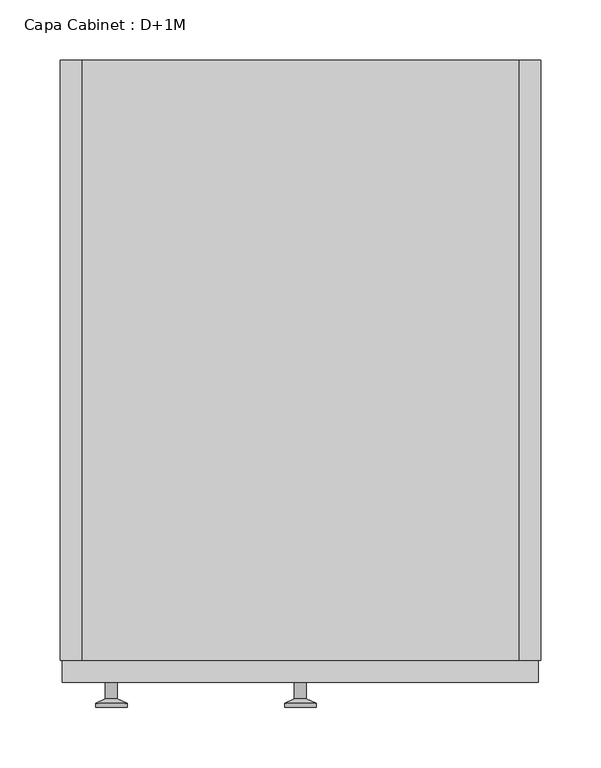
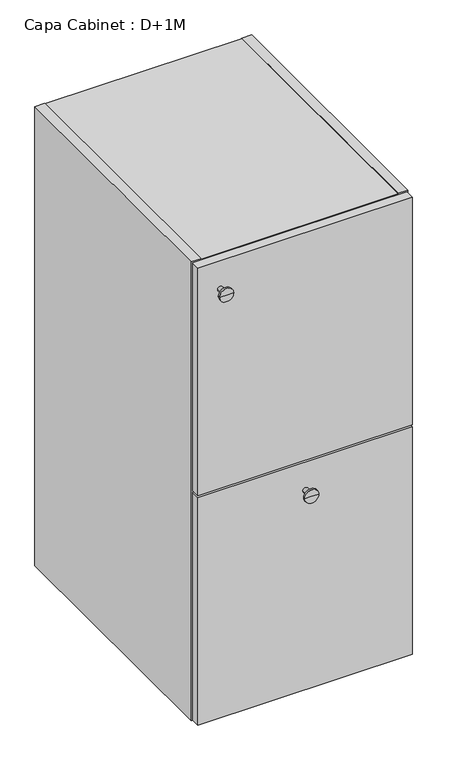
"""IFC4 building model written with IfcOpenShell, lengths in millimetres: furniture geometry, Capa Cabinet : D+1M."""

from ifc_helpers import new_model, si_unit, frame, origin, place, context, project, spatial, polyline, circle_curve, outline, extrude, faceted_brep, source, transform, mapped, element, save
from ifc_brep_helpers import plane_surface, cylinder_surface, revolved_surface, advanced_brep


def capa_cabinet_d_1m_c45f0c9c(model_context):
    return source(origin(), model_context, "Body", "SolidModel", [
        extrude(outline(polyline([(182.0, 0.0), (-182.0, 0.0), (-182.0, 490.0), (182.0, 490.0), (182.0, 0.0)])), frame((0.0, 0.0, 441.0), z_axis=(0.0, 0.0, 1.0), x_axis=(1.0, 0.0, 0.0)), (0.0, 0.0, 1.0), 14.0),
        faceted_brep([(-182.0, 500.0, 896.0), (-182.0, 500.0, 895.0), (182.0, 500.0, 895.0), (182.0, 500.0, 896.0), (200.0, 500.0, 896.0), (200.0, 500.0, 0.0), (182.0, 500.0, 0.0), (182.0, 500.0, 1.0), (-182.0, 500.0, 1.0), (-182.0, 500.0, 0.0), (-200.0, 500.0, 0.0), (-200.0, 500.0, 896.0), (182.0, 490.0, 19.0), (182.0, 490.0, 877.0), (-182.0, 490.0, 877.0), (-182.0, 490.0, 19.0), (-182.0, 0.0, 896.0), (-200.0, 0.0, 896.0), (-200.0, 0.0, 0.0), (-182.0, 0.0, 0.0), (-182.0, 0.0, 1.0), (182.0, 0.0, 1.0), (182.0, 0.0, 0.0), (200.0, 0.0, 0.0), (200.0, 0.0, 896.0), (182.0, 0.0, 896.0), (182.0, 0.0, 895.0), (-182.0, 0.0, 895.0), (182.0, 0.0, 877.0), (182.0, 0.0, 19.0), (-182.0, 0.0, 19.0), (-182.0, 0.0, 877.0)], [[[0, 1, 2, 3, 4, 5, 6, 7, 8, 9, 10, 11]], [[12, 13, 14, 15]], [[16, 17, 18, 19, 20, 21, 22, 23, 24, 25, 26, 27], [28, 29, 30, 31]], [[17, 16, 0, 11]], [[18, 17, 11, 10]], [[23, 22, 6, 5]], [[24, 23, 5, 4]], [[19, 18, 10, 9]], [[20, 19, 9, 8]], [[21, 20, 8, 7]], [[22, 21, 7, 6]], [[25, 24, 4, 3]], [[26, 25, 3, 2]], [[27, 26, 2, 1]], [[16, 27, 1, 0]], [[29, 28, 13, 12]], [[30, 29, 12, 15]], [[31, 30, 15, 14]], [[28, 31, 14, 13]]]),
        extrude(outline(polyline([(198.0, -18.0), (-198.0, -18.0), (-198.0, 0.0), (198.0, 0.0), (198.0, -18.0)])), frame((0.0, 0.0, 2.0), z_axis=(0.0, 0.0, 1.0), x_axis=(1.0, 0.0, 0.0)), (0.0, 0.0, 1.0), 444.0),
        advanced_brep(
        [(0.0, -18.0, 392.0), (5.0, -18.0, 392.0), (-5.0, -18.0, 392.0), (-13.0, -38.997134, 392.0), (13.0, -38.997134, 392.0), (0.0, -38.997134, 392.0), (-13.0, -35.5419417, 392.0), (13.0, -35.5419417, 392.0), (-5.0, -31.8114804, 392.0), (5.0, -31.8114804, 392.0)],
        [
            (0, 1),
            (1, 2, circle_curve(frame((0.0, -18.0, 392.0), z_axis=(0.0, 1.0, 0.0), x_axis=(1.0, 0.0, 0.0)), 5.0)),
            (2, 0),
            (2, 1, circle_curve(frame((0.0, -18.0, 392.0), z_axis=(0.0, 1.0, 0.0), x_axis=(1.0, 0.0, 0.0)), 5.0)),
            (3, 4, circle_curve(frame((0.0, -38.997134, 392.0), z_axis=(0.0, -1.0, 0.0), x_axis=(1.0, 0.0, 0.0)), 13.0)),
            (4, 5),
            (5, 3),
            (4, 3, circle_curve(frame((0.0, -38.997134, 392.0), z_axis=(0.0, -1.0, 0.0), x_axis=(1.0, 0.0, 0.0)), 13.0)),
            (6, 7, circle_curve(frame((0.0, -35.5419417, 392.0), z_axis=(0.0, -1.0, 0.0), x_axis=(1.0, 0.0, 0.0)), 13.0)),
            (7, 4),
            (3, 6),
            (7, 6, circle_curve(frame((0.0, -35.5419417, 392.0), z_axis=(0.0, -1.0, 0.0), x_axis=(1.0, 0.0, 0.0)), 13.0)),
            (8, 9, circle_curve(frame((0.0, -31.8114804, 392.0), z_axis=(0.0, -1.0, 0.0), x_axis=(1.0, 0.0, 0.0)), 5.0)),
            (9, 7),
            (6, 8),
            (9, 8, circle_curve(frame((0.0, -31.8114804, 392.0), z_axis=(0.0, -1.0, 0.0), x_axis=(1.0, 0.0, 0.0)), 5.0)),
            (1, 9),
            (8, 2),
        ],
        [
            plane_surface(frame((0.0, -18.0, 392.0), z_axis=(0.0, 1.0, 0.0), x_axis=(1.0, 0.0, 0.0))),
            plane_surface(frame((0.0, -38.997134, 392.0), z_axis=(0.0, -1.0, 0.0), x_axis=(1.0, 0.0, 0.0))),
            cylinder_surface(frame((0.0, -38.997134, 392.0), z_axis=(0.0, 1.0, 0.0), x_axis=(1.0, 0.0, 0.0)), 13.0),
            revolved_surface(polyline([(13.0, -35.5419417, 392.0), (5.0, -31.8114804, 392.0)]), (0.0, -38.997134, 392.0), (0.0, 1.0, 0.0)),
            cylinder_surface(frame((0.0, -38.997134, 392.0), z_axis=(0.0, 1.0, 0.0), x_axis=(1.0, 0.0, 0.0)), 5.0),
        ],
        [
            (0, [[1, 2, 3]]),
            (0, [[-3, 4, -1]]),
            (1, [[5, 6, 7]]),
            (1, [[8, -7, -6]]),
            (2, [[9, 10, -5, 11]]),
            (2, [[12, -11, -8, -10]]),
            (3, [[13, 14, -9, 15]]),
            (3, [[16, -15, -12, -14]]),
            (4, [[-2, 17, -13, 18]]),
            (4, [[-4, -18, -16, -17]]),
        ],
    ),
        extrude(outline(polyline([(198.0, -18.0), (-198.0, -18.0), (-198.0, 0.0), (198.0, 0.0), (198.0, -18.0)])), frame((0.0, 0.0, 450.0), z_axis=(0.0, 0.0, 1.0), x_axis=(1.0, 0.0, 0.0)), (0.0, 0.0, 1.0), 444.0),
        advanced_brep(
        [(-157.2922597, -18.0, 840.0), (-152.2922597, -18.0, 840.0), (-162.2922597, -18.0, 840.0), (-170.2922597, -38.997134, 840.0), (-144.2922597, -38.997134, 840.0), (-157.2922597, -38.997134, 840.0), (-170.2922597, -35.5419417, 840.0), (-144.2922597, -35.5419417, 840.0), (-162.2922597, -31.8114804, 840.0), (-152.2922597, -31.8114804, 840.0)],
        [
            (0, 1),
            (1, 2, circle_curve(frame((-157.2922597, -18.0, 840.0), z_axis=(0.0, 1.0, 0.0), x_axis=(1.0, 0.0, 0.0)), 5.0)),
            (2, 0),
            (2, 1, circle_curve(frame((-157.2922597, -18.0, 840.0), z_axis=(0.0, 1.0, 0.0), x_axis=(1.0, 0.0, 0.0)), 5.0)),
            (3, 4, circle_curve(frame((-157.2922597, -38.997134, 840.0), z_axis=(0.0, -1.0, 0.0), x_axis=(1.0, 0.0, 0.0)), 13.0)),
            (4, 5),
            (5, 3),
            (4, 3, circle_curve(frame((-157.2922597, -38.997134, 840.0), z_axis=(0.0, -1.0, 0.0), x_axis=(1.0, 0.0, 0.0)), 13.0)),
            (6, 7, circle_curve(frame((-157.2922597, -35.5419417, 840.0), z_axis=(0.0, -1.0, 0.0), x_axis=(1.0, 0.0, 0.0)), 13.0)),
            (7, 4),
            (3, 6),
            (7, 6, circle_curve(frame((-157.2922597, -35.5419417, 840.0), z_axis=(0.0, -1.0, 0.0), x_axis=(1.0, 0.0, 0.0)), 13.0)),
            (8, 9, circle_curve(frame((-157.2922597, -31.8114804, 840.0), z_axis=(0.0, -1.0, 0.0), x_axis=(1.0, 0.0, 0.0)), 5.0)),
            (9, 7),
            (6, 8),
            (9, 8, circle_curve(frame((-157.2922597, -31.8114804, 840.0), z_axis=(0.0, -1.0, 0.0), x_axis=(1.0, 0.0, 0.0)), 5.0)),
            (1, 9),
            (8, 2),
        ],
        [
            plane_surface(frame((-157.2922597, -18.0, 840.0), z_axis=(0.0, 1.0, 0.0), x_axis=(1.0, 0.0, 0.0))),
            plane_surface(frame((-157.2922597, -38.997134, 840.0), z_axis=(0.0, -1.0, 0.0), x_axis=(1.0, 0.0, 0.0))),
            cylinder_surface(frame((-157.2922597, -38.997134, 840.0), z_axis=(0.0, 1.0, 0.0), x_axis=(1.0, 0.0, 0.0)), 13.0),
            revolved_surface(polyline([(-144.2922597, -35.5419417, 840.0), (-152.2922597, -31.8114804, 840.0)]), (-157.2922597, -38.997134, 840.0), (0.0, 1.0, 0.0)),
            cylinder_surface(frame((-157.2922597, -38.997134, 840.0), z_axis=(0.0, 1.0, 0.0), x_axis=(1.0, 0.0, 0.0)), 5.0),
        ],
        [
            (0, [[1, 2, 3]]),
            (0, [[-3, 4, -1]]),
            (1, [[5, 6, 7]]),
            (1, [[8, -7, -6]]),
            (2, [[9, 10, -5, 11]]),
            (2, [[12, -11, -8, -10]]),
            (3, [[13, 14, -9, 15]]),
            (3, [[16, -15, -12, -14]]),
            (4, [[-2, 17, -13, 18]]),
            (4, [[-4, -18, -16, -17]]),
        ],
    ),
    ])


if __name__ == "__main__":
    model = new_model("IFC4")
    model_context = context("Model", 3, world=origin())
    ifc_project = project(units=[si_unit("LENGTHUNIT", "METRE", prefix="MILLI")], contexts=[model_context])
    site = spatial("IfcSite", under=ifc_project)
    building = spatial("IfcBuilding", under=site)
    placement = place(None, origin())
    capa_cabinet_d_1m_shape = capa_cabinet_d_1m_c45f0c9c(model_context)
    element("IfcFurniture", 1, ObjectType="Capa Cabinet : D+1M", at=placement, inside=building, context=model_context, shape_type="MappedRepresentation", body=[
        mapped(capa_cabinet_d_1m_shape, transform((0.0, 0.0, 0.0), x_axis=(1.0, 0.0, 0.0), y_axis=(0.0, 1.0, 0.0), z_axis=(0.0, 0.0, 1.0))),
    ])
    save(model, "model.ifc")
